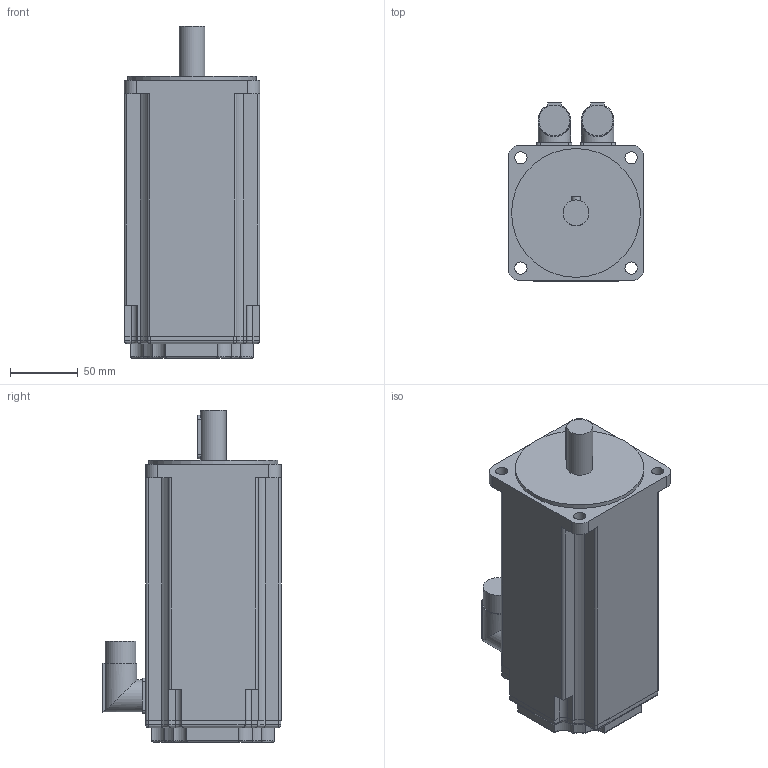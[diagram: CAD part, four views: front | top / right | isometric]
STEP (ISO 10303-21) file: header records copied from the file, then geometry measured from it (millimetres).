
FILE_DESCRIPTION(/* description */ (''),/* implementation_level */ '2;1');
FILE_NAME(/* name */ '\\Lafnas01\disegni\Archivi Lafert\3D\CAD 3D\MODELLI\Assiemi clienti\Serad\Modelli 3D Serad\B63Q\Encoder\Enc Without Brake\B6308Qxx6ARx2033.ipt.stp',/* time_stamp */ '2015-09-07T10:51:13+02:00',/* author */ ('Pastrello Ylenia'),/* organization */ (''),/* preprocessor_version */ 'ST-DEVELOPER v15.6',/* originating_system */ 'Autodesk Inventor 2015',/* authorisation */ '');
FILE_SCHEMA (('AUTOMOTIVE_DESIGN { 1 0 10303 214 3 1 1 }'));
Length unit declared in the file: millimetre
Products named in the file (1): B6308Qxx6ARx2033
Bounding box: 100 x 131.5 x 245 mm (x, y, z)
Volume: 1881123 mm3; surface area: 109900.2 mm2
Topology: 1 solids, 1 shells, 195 faces, 500 edges, 318 vertices
Faces by surface type: cylinder 90, plane 81, torus 20, sphere 4
Full cylindrical faces by diameter (mm): 9 x4, 19 x1, 22.7 x2, 24 x2, 95 x1
Entity records: 6152 total; most frequent: CARTESIAN_POINT 1342, DIRECTION 1030, ORIENTED_EDGE 972, EDGE_CURVE 486, AXIS2_PLACEMENT_3D 374, VERTEX_POINT 314, LINE 282, VECTOR 282
